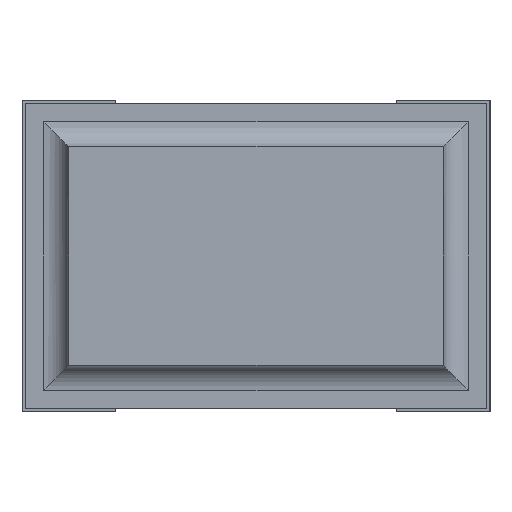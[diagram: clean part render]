
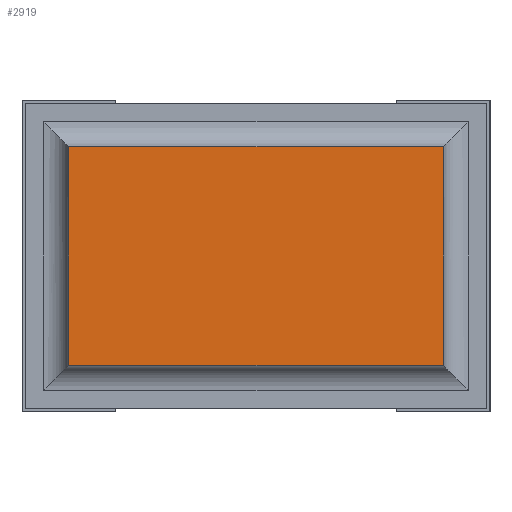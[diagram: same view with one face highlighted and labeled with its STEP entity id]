
A CAD part, front view. The second image highlights one B-rep face of the part: STEP entity #2919.
In plain terms, the highlighted planar face has unit normal (0, -1, 0).
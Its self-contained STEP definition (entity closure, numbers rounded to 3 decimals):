
#76=PLANE('',#3122);
#213=FACE_OUTER_BOUND('',#378,.T.);
#378=EDGE_LOOP('',(#2105,#2106,#2107,#2108));
#569=LINE('',#4254,#943);
#572=LINE('',#4260,#946);
#573=LINE('',#4263,#947);
#574=LINE('',#4264,#948);
#943=VECTOR('',#3430,10.);
#946=VECTOR('',#3435,10.);
#947=VECTOR('',#3438,10.);
#948=VECTOR('',#3439,10.);
#1331=VERTEX_POINT('',#4250);
#1332=VERTEX_POINT('',#4252);
#1334=VERTEX_POINT('',#4258);
#1335=VERTEX_POINT('',#4262);
#1631=EDGE_CURVE('',#1331,#1332,#569,.T.);
#1634=EDGE_CURVE('',#1334,#1332,#572,.T.);
#1635=EDGE_CURVE('',#1335,#1334,#573,.T.);
#1636=EDGE_CURVE('',#1331,#1335,#574,.T.);
#2105=ORIENTED_EDGE('',*,*,#1634,.F.);
#2106=ORIENTED_EDGE('',*,*,#1635,.F.);
#2107=ORIENTED_EDGE('',*,*,#1636,.F.);
#2108=ORIENTED_EDGE('',*,*,#1631,.T.);
#2919=ADVANCED_FACE('',(#213),#76,.T.);
#3122=AXIS2_PLACEMENT_3D('',#4261,#3436,#3437);
#3430=DIRECTION('',(0.,0.,-1.));
#3435=DIRECTION('',(-1.,0.,0.));
#3436=DIRECTION('center_axis',(0.,-1.,0.));
#3437=DIRECTION('ref_axis',(0.,0.,-1.));
#3438=DIRECTION('',(0.,0.,-1.));
#3439=DIRECTION('',(1.,0.,0.));
#4250=CARTESIAN_POINT('',(0.075,0.,0.425));
#4252=CARTESIAN_POINT('',(0.075,0.,0.075));
#4254=CARTESIAN_POINT('',(0.075,0.,0.425));
#4258=CARTESIAN_POINT('',(0.675,0.,0.075));
#4260=CARTESIAN_POINT('',(0.675,0.,0.075));
#4261=CARTESIAN_POINT('Origin',(0.676,0.,0.25));
#4262=CARTESIAN_POINT('',(0.675,0.,0.425));
#4263=CARTESIAN_POINT('',(0.675,0.,0.425));
#4264=CARTESIAN_POINT('',(0.075,0.,0.425));
